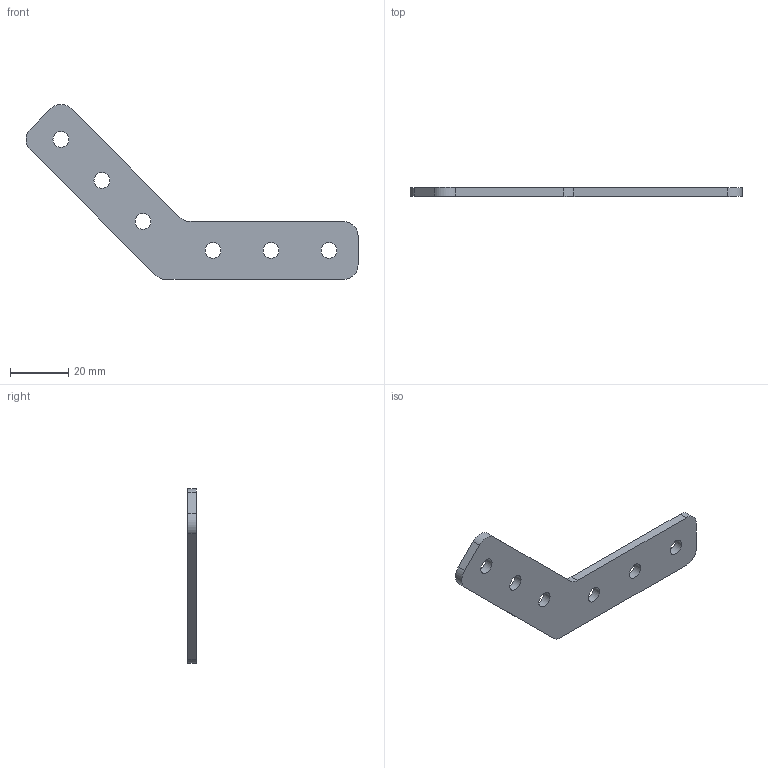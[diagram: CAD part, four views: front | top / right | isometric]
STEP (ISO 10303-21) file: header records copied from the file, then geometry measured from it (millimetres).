
FILE_DESCRIPTION(/* description */ (''),/* implementation_level */ '2;1');
FILE_NAME(/* name */ 'Verbinder_45deg.stp',/* time_stamp */ '2024-10-14T15:49:17+02:00',/* author */ ('tallA'),/* organization */ (''),/* preprocessor_version */ 'ST-DEVELOPER v20',/* originating_system */ 'Autodesk Inventor 2025',/* authorisation */ '');
FILE_SCHEMA (('AUTOMOTIVE_DESIGN { 1 0 10303 214 3 1 1 }'));
Length unit declared in the file: millimetre
Products named in the file (1): Verbinder_45deg
Bounding box: 114.48 x 3 x 60.34 mm (x, y, z)
Volume: 7205 mm3; surface area: 5977 mm2
Topology: 1 solids, 1 shells, 20 faces, 60 edges, 49 vertices
Faces by surface type: cylinder 12, plane 8
Full cylindrical faces by diameter (mm): 5.5 x6
Entity records: 751 total; most frequent: CARTESIAN_POINT 124, DIRECTION 120, ORIENTED_EDGE 108, EDGE_CURVE 54, AXIS2_PLACEMENT_3D 45, VERTEX_POINT 36, EDGE_LOOP 32, LINE 30
